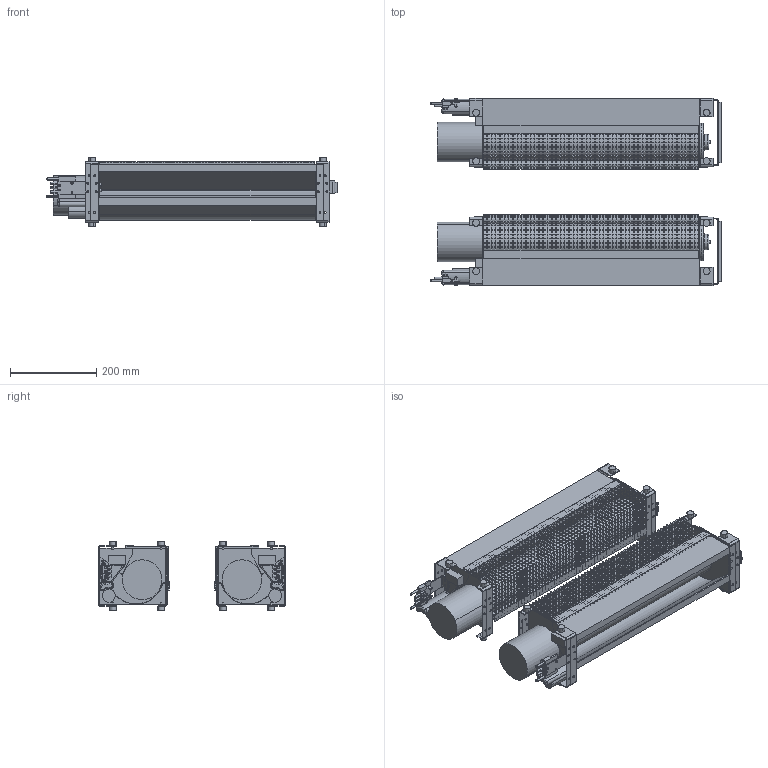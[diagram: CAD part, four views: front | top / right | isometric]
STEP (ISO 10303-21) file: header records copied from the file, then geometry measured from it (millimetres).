
FILE_DESCRIPTION(('CATIA V5-6R2013 STEP','CAx-IF Rec.Pracs.--- Model Styling and Organization---1.4--- 2014-01-23','CAx-IF Rec.Pracs.--- Geometric and Assembly Validation Properties ---4.2---2014-10-09','CAx-IF Rec.Pracs.---3D Tessellated Data Validation Properties---0.5---2014-09-14'),'2;1');
FILE_NAME('C:\Temp\AccVizTemp_nrdeel3ux1g\out_058c5839-8212-46c2-ac9d-847a3fdbd474.stp','2026-02-11T15:21:41+00:00',('none'),('CERN'),'CATIA Version 5-6 Release 2017 SP6 HF16','CATIA V5 STEP AP242','none');
FILE_SCHEMA(('AP242_MANAGED_MODEL_BASED_3D_ENGINEERING_MIM_LF {1 0 10303 442 1 1 4}'));
Products named in the file (20): ST0722463_01; ST0722250_01; ST0815229_01; ST0815181_01; ST0723191_01; ST0725468_01; ST0729874_01; ST0729839_01; ST0729836_01; ST0725128_01; ST0730020_01; ST0729956_01; ISO 4762 M3x20-A4_01; ISO 4032_M3-8-A0U_01; ISO 4762_M3x16-8.8-A0C_01; ST0809147_01; Product1; ISO 4762_M4x20-12.9-A0U_01; ISO 10511_M4-8-A0U_01; ST0821194_01
Assembly tree (47 placements, depth 3):
  ST0722463_01
    ST0722250_01
    ST0815229_01  x4
    ST0815181_01  x4
    ST0723191_01  x16
    ST0725468_01  x2
    ST0729874_01  x2
      ST0729839_01
      ST0729836_01
      ST0725128_01
      ST0730020_01
      ST0729956_01
      ISO 4762 M3x20-A4_01
      ISO 4032_M3-8-A0U_01
      ISO 4762_M3x16-8.8-A0C_01
    ST0809147_01  x2
    Product1
      ISO 4762_M4x20-12.9-A0U_01  x2
      ISO 10511_M4-8-A0U_01  x2
    ST0821194_01  x2
Bounding box: 673 x 435 x 161 mm (x, y, z)
Volume: 11302390.9 mm3; surface area: 1793250.6 mm2
Topology: 54 solids, 54 shells, 9676 faces, 28150 edges, 18416 vertices
Faces by surface type: plane 8888, cylinder 606, cone 88, torus 52, sphere 32, bspline 10
Entity records: 157732 total; most frequent: CARTESIAN_POINT 29084, ORIENTED_EDGE 28174, DIRECTION 22103, EDGE_CURVE 14087, VECTOR 13311, LINE 13311, VERTEX_POINT 9220, EDGE_LOOP 6565
